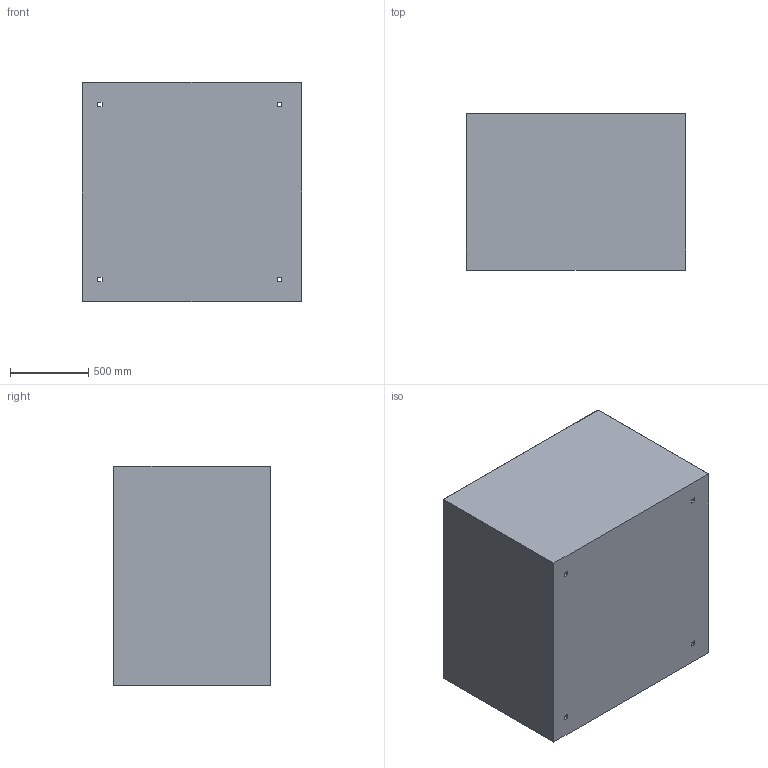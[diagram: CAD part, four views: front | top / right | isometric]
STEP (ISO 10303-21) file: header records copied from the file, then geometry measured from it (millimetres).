
FILE_DESCRIPTION(/* description */ (''),/* implementation_level */ '2;1');
FILE_NAME(/* name */ 'C:\Mac\Home\Desktop\btnv\inventor\grande140140100\donica betonowa Grande 140x140x100cm.stp',/* time_stamp */ '2025-11-10T22:46:14+01:00',/* author */ ('dwasik'),/* organization */ (''),/* preprocessor_version */ 'ST-DEVELOPER v15.6',/* originating_system */ 'Autodesk Inventor 2015',/* authorisation */ '');
FILE_SCHEMA (('AUTOMOTIVE_DESIGN { 1 0 10303 214 3 1 1 }'));
Length unit declared in the file: millimetre
Products named in the file (1): Part1
Bounding box: 1400 x 1000 x 1400 mm (x, y, z)
Volume: 419784115.3 mm3; surface area: 14369913.2 mm2
Topology: 5 solids, 5 shells, 51 faces, 108 edges, 68 vertices
Faces by surface type: plane 35, cylinder 12, sphere 4
Full cylindrical faces by diameter (mm): 25 x4
Entity records: 1366 total; most frequent: DIRECTION 232, CARTESIAN_POINT 224, ORIENTED_EDGE 208, EDGE_CURVE 104, LINE 80, VECTOR 80, AXIS2_PLACEMENT_3D 76, VERTEX_POINT 68
